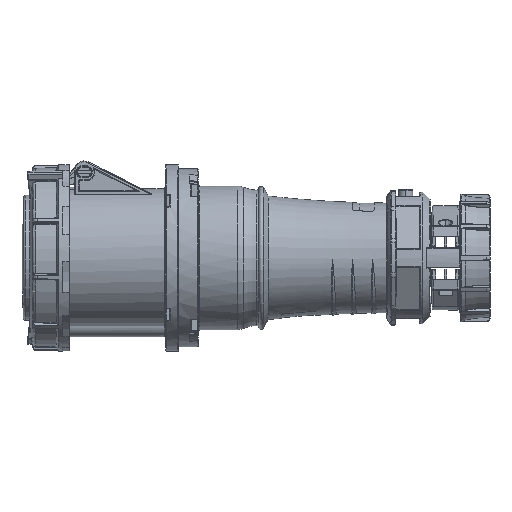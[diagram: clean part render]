
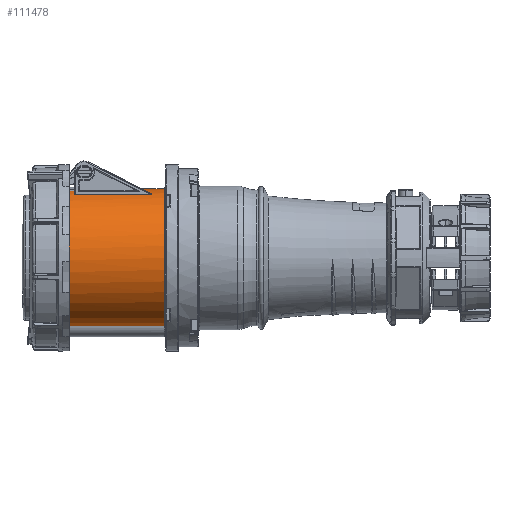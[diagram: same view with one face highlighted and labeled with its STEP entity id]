
A CAD part, left-side view. The second image highlights one B-rep face of the part: STEP entity #111478.
In plain terms, the highlighted cylindrical face has radius 44.75 mm (diameter 89.5 mm), a partial arc.
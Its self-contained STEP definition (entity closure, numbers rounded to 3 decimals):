
#747 = LINE ( 'NONE', #91411, #123537 ) ;
#2485 = CYLINDRICAL_SURFACE ( 'NONE', #39372, 44.75 ) ;
#6382 = DIRECTION ( 'NONE',  ( 0., 0., 1. ) ) ;
#7871 = CARTESIAN_POINT ( 'NONE',  ( 237.363, 67.163, -958.669 ) ) ;
#9028 = AXIS2_PLACEMENT_3D ( 'NONE', #102918, #113867, #61750 ) ;
#9789 = CARTESIAN_POINT ( 'NONE',  ( 237.267, 67.738, -958.708 ) ) ;
#11968 = CARTESIAN_POINT ( 'NONE',  ( 246.756, 59.126, -1044.072 ) ) ;
#12078 = DIRECTION ( 'NONE',  ( 0., 1., 0. ) ) ;
#12546 = ORIENTED_EDGE ( 'NONE', *, *, #31392, .T. ) ;
#16702 = ORIENTED_EDGE ( 'NONE', *, *, #120637, .T. ) ;
#18822 = CARTESIAN_POINT ( 'NONE',  ( 237.468, 117.032, -958.625 ) ) ;
#19442 = CARTESIAN_POINT ( 'NONE',  ( 237.542, 66.97, -958.595 ) ) ;
#20174 = LINE ( 'NONE', #78088, #28178 ) ;
#22316 = LINE ( 'NONE', #79615, #55244 ) ;
#24483 = CARTESIAN_POINT ( 'NONE',  ( 237.267, 116.626, -958.708 ) ) ;
#27435 = VECTOR ( 'NONE', #106727, 1000. ) ;
#27837 = CARTESIAN_POINT ( 'NONE',  ( 237.356, 67.179, -958.672 ) ) ;
#28178 = VECTOR ( 'NONE', #69081, 1000. ) ;
#28568 = ORIENTED_EDGE ( 'NONE', *, *, #67637, .T. ) ;
#30493 = CARTESIAN_POINT ( 'NONE',  ( 254.517, 73.507, -955.25 ) ) ;
#31392 = EDGE_CURVE ( 'NONE', #92568, #86930, #747, .T. ) ;
#31601 = DIRECTION ( 'NONE',  ( 0., 1., 0. ) ) ;
#32835 = VERTEX_POINT ( 'NONE', #34396 ) ;
#34206 = AXIS2_PLACEMENT_3D ( 'NONE', #60991, #12078, #68103 ) ;
#34396 = CARTESIAN_POINT ( 'NONE',  ( 254.517, 59.126, -955.25 ) ) ;
#36036 = CARTESIAN_POINT ( 'NONE',  ( 243.267, 117.126, -956.687 ) ) ;
#36130 = CARTESIAN_POINT ( 'NONE',  ( 254.517, 73.507, -955.25 ) ) ;
#38037 = CARTESIAN_POINT ( 'NONE',  ( 248.759, 73.507, -955.25 ) ) ;
#38143 = CARTESIAN_POINT ( 'NONE',  ( 237.335, 116.886, -958.68 ) ) ;
#39372 = AXIS2_PLACEMENT_3D ( 'NONE', #101570, #110584, #79715 ) ;
#39378 = CARTESIAN_POINT ( 'NONE',  ( 237.595, 66.96, -958.573 ) ) ;
#39481 = B_SPLINE_CURVE_WITH_KNOTS ( 'NONE', 3,
 ( #117288, #46521, #47779, #38143, #126347, #18822, #87036, #87660, #68357, #66463 ),
 .UNSPECIFIED., .F., .F.,
 ( 4, 2, 2, 2, 4 ),
 ( 0., 0.25, 0.5, 0.75, 1. ),
 .UNSPECIFIED. ) ;
#41641 = DIRECTION ( 'NONE',  ( 0., 1., 0. ) ) ;
#46492 = CARTESIAN_POINT ( 'NONE',  ( 237.67, 66.976, -958.543 ) ) ;
#46521 = CARTESIAN_POINT ( 'NONE',  ( 237.268, 116.696, -958.708 ) ) ;
#47760 = B_SPLINE_CURVE_WITH_KNOTS ( 'NONE', 3,
 ( #123758, #94763, #68329, #78623, #46492, #125670, #48392, #39378, #107606, #19442, #106343, #49007, #58683, #66438, #116001, #7871, #109964, #27837, #88258, #97942, #126320, #9789 ),
 .UNSPECIFIED., .F., .F.,
 ( 4, 1, 2, 2, 1, 2, 2, 1, 1, 1, 1, 2, 2, 4 ),
 ( 0., 0.062, 0.094, 0.125, 0.187, 0.219, 0.25, 0.375, 0.437, 0.469, 0.484, 0.492, 0.5, 1. ),
 .UNSPECIFIED. ) ;
#47779 = CARTESIAN_POINT ( 'NONE',  ( 237.282, 116.762, -958.702 ) ) ;
#48392 = CARTESIAN_POINT ( 'NONE',  ( 237.628, 66.963, -958.56 ) ) ;
#49007 = CARTESIAN_POINT ( 'NONE',  ( 237.487, 66.993, -958.617 ) ) ;
#49498 = CARTESIAN_POINT ( 'NONE',  ( 246.756, 123.626, -1044.072 ) ) ;
#52912 = AXIS2_PLACEMENT_3D ( 'NONE', #125439, #113866, #6382 ) ;
#53719 = CARTESIAN_POINT ( 'NONE',  ( 237.767, 67.033, -958.503 ) ) ;
#53946 =( BOUNDED_CURVE ( )  B_SPLINE_CURVE ( 3, ( #36130, #38037, #75373, #125595 ),
 .UNSPECIFIED., .F., .F. ) 
 B_SPLINE_CURVE_WITH_KNOTS ( ( 4, 4 ),
 ( 0., 0.384 ),
 .UNSPECIFIED. ) 
 CURVE ( )  GEOMETRIC_REPRESENTATION_ITEM ( )  RATIONAL_B_SPLINE_CURVE ( ( 1., 0.988, 0.988, 1. ) ) 
 REPRESENTATION_ITEM ( '' )  );
#55244 = VECTOR ( 'NONE', #41641, 1000. ) ;
#56221 = VERTEX_POINT ( 'NONE', #30493 ) ;
#57674 = CARTESIAN_POINT ( 'NONE',  ( 243.267, 123.626, -956.687 ) ) ;
#58683 = CARTESIAN_POINT ( 'NONE',  ( 237.44, 67.03, -958.636 ) ) ;
#60991 = CARTESIAN_POINT ( 'NONE',  ( 254.517, 123.626, -1000. ) ) ;
#61665 = FACE_OUTER_BOUND ( 'NONE', #70707, .T. ) ;
#61750 = DIRECTION ( 'NONE',  ( 0., 0., -1. ) ) ;
#64536 = EDGE_CURVE ( 'NONE', #115371, #101175, #89701, .T. ) ;
#65263 = EDGE_CURVE ( 'NONE', #32835, #56221, #20174, .T. ) ;
#66438 = CARTESIAN_POINT ( 'NONE',  ( 237.394, 67.099, -958.656 ) ) ;
#66463 = CARTESIAN_POINT ( 'NONE',  ( 237.767, 117.126, -958.503 ) ) ;
#67637 = EDGE_CURVE ( 'NONE', #125515, #101175, #22316, .T. ) ;
#68103 = DIRECTION ( 'NONE',  ( 0., 0., 1. ) ) ;
#68329 = CARTESIAN_POINT ( 'NONE',  ( 237.718, 66.997, -958.523 ) ) ;
#68357 = CARTESIAN_POINT ( 'NONE',  ( 237.703, 117.126, -958.529 ) ) ;
#69081 = DIRECTION ( 'NONE',  ( 0., 1., 0. ) ) ;
#70707 = EDGE_LOOP ( 'NONE', ( #96450, #110978, #126550, #81681, #12546, #16702, #119072, #28568, #100725, #90359 ) ) ;
#71380 = CIRCLE ( 'NONE', #52912, 44.75 ) ;
#75373 = CARTESIAN_POINT ( 'NONE',  ( 243.107, 71.322, -956.348 ) ) ;
#75494 = VERTEX_POINT ( 'NONE', #101809 ) ;
#75821 = EDGE_CURVE ( 'NONE', #125515, #75494, #124080, .T. ) ;
#78088 = CARTESIAN_POINT ( 'NONE',  ( 254.517, 58.126, -955.25 ) ) ;
#78623 = CARTESIAN_POINT ( 'NONE',  ( 237.689, 66.983, -958.535 ) ) ;
#79026 = LINE ( 'NONE', #118313, #27435 ) ;
#79068 = EDGE_CURVE ( 'NONE', #97954, #92568, #47760, .T. ) ;
#79615 = CARTESIAN_POINT ( 'NONE',  ( 243.267, 58.126, -956.687 ) ) ;
#79715 = DIRECTION ( 'NONE',  ( 0., 0., 1. ) ) ;
#81681 = ORIENTED_EDGE ( 'NONE', *, *, #79068, .T. ) ;
#86930 = VERTEX_POINT ( 'NONE', #24483 ) ;
#87036 = CARTESIAN_POINT ( 'NONE',  ( 237.523, 117.067, -958.603 ) ) ;
#87660 = CARTESIAN_POINT ( 'NONE',  ( 237.641, 117.115, -958.554 ) ) ;
#88258 = CARTESIAN_POINT ( 'NONE',  ( 237.354, 67.184, -958.672 ) ) ;
#89701 = CIRCLE ( 'NONE', #34206, 44.75 ) ;
#90359 = ORIENTED_EDGE ( 'NONE', *, *, #100079, .T. ) ;
#91411 = CARTESIAN_POINT ( 'NONE',  ( 237.267, 58.126, -958.708 ) ) ;
#92568 = VERTEX_POINT ( 'NONE', #97899 ) ;
#94763 = CARTESIAN_POINT ( 'NONE',  ( 237.748, 67.017, -958.511 ) ) ;
#95783 = EDGE_CURVE ( 'NONE', #98614, #32835, #71380, .T. ) ;
#96450 = ORIENTED_EDGE ( 'NONE', *, *, #95783, .T. ) ;
#97899 = CARTESIAN_POINT ( 'NONE',  ( 237.267, 67.738, -958.708 ) ) ;
#97942 = CARTESIAN_POINT ( 'NONE',  ( 237.296, 67.327, -958.696 ) ) ;
#97954 = VERTEX_POINT ( 'NONE', #53719 ) ;
#98614 = VERTEX_POINT ( 'NONE', #11968 ) ;
#100079 = EDGE_CURVE ( 'NONE', #115371, #98614, #79026, .T. ) ;
#100725 = ORIENTED_EDGE ( 'NONE', *, *, #64536, .F. ) ;
#101175 = VERTEX_POINT ( 'NONE', #57674 ) ;
#101570 = CARTESIAN_POINT ( 'NONE',  ( 254.517, 58.126, -1000. ) ) ;
#101809 = CARTESIAN_POINT ( 'NONE',  ( 237.767, 117.126, -958.503 ) ) ;
#102918 = CARTESIAN_POINT ( 'NONE',  ( 254.517, 117.126, -1000. ) ) ;
#106343 = CARTESIAN_POINT ( 'NONE',  ( 237.53, 66.974, -958.6 ) ) ;
#106727 = DIRECTION ( 'NONE',  ( 0., -1., 0. ) ) ;
#107606 = CARTESIAN_POINT ( 'NONE',  ( 237.563, 66.965, -958.586 ) ) ;
#109964 = CARTESIAN_POINT ( 'NONE',  ( 237.359, 67.172, -958.67 ) ) ;
#110452 = EDGE_CURVE ( 'NONE', #56221, #97954, #53946, .T. ) ;
#110584 = DIRECTION ( 'NONE',  ( 0., 1., 0. ) ) ;
#110978 = ORIENTED_EDGE ( 'NONE', *, *, #65263, .T. ) ;
#111478 = ADVANCED_FACE ( 'NONE', ( #61665 ), #2485, .T. ) ;
#113866 = DIRECTION ( 'NONE',  ( 0., 1., 0. ) ) ;
#113867 = DIRECTION ( 'NONE',  ( 0., -1., 0. ) ) ;
#115371 = VERTEX_POINT ( 'NONE', #49498 ) ;
#116001 = CARTESIAN_POINT ( 'NONE',  ( 237.373, 67.14, -958.664 ) ) ;
#117288 = CARTESIAN_POINT ( 'NONE',  ( 237.267, 116.626, -958.708 ) ) ;
#118313 = CARTESIAN_POINT ( 'NONE',  ( 246.756, 58.126, -1044.072 ) ) ;
#119072 = ORIENTED_EDGE ( 'NONE', *, *, #75821, .F. ) ;
#120637 = EDGE_CURVE ( 'NONE', #86930, #75494, #39481, .T. ) ;
#123537 = VECTOR ( 'NONE', #31601, 1000. ) ;
#123758 = CARTESIAN_POINT ( 'NONE',  ( 237.767, 67.033, -958.503 ) ) ;
#124080 = CIRCLE ( 'NONE', #9028, 44.75 ) ;
#125439 = CARTESIAN_POINT ( 'NONE',  ( 254.517, 59.126, -1000. ) ) ;
#125515 = VERTEX_POINT ( 'NONE', #36036 ) ;
#125595 = CARTESIAN_POINT ( 'NONE',  ( 237.767, 67.033, -958.503 ) ) ;
#125670 = CARTESIAN_POINT ( 'NONE',  ( 237.662, 66.973, -958.546 ) ) ;
#126320 = CARTESIAN_POINT ( 'NONE',  ( 237.267, 67.511, -958.708 ) ) ;
#126347 = CARTESIAN_POINT ( 'NONE',  ( 237.374, 116.941, -958.664 ) ) ;
#126550 = ORIENTED_EDGE ( 'NONE', *, *, #110452, .T. ) ;
